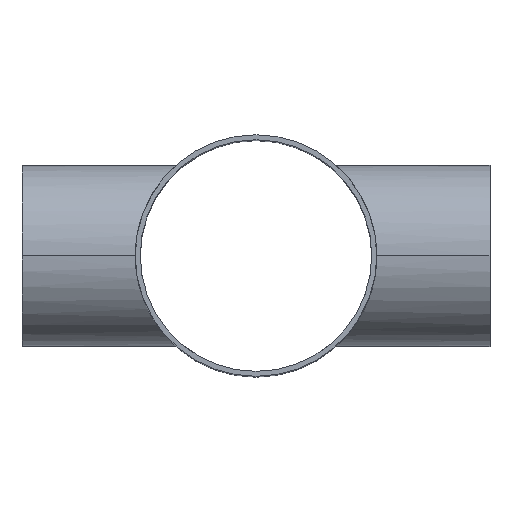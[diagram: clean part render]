
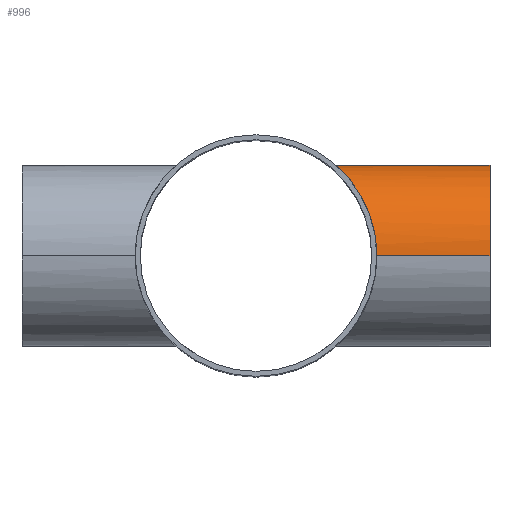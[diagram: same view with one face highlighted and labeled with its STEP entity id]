
A CAD part, top view. The second image highlights one B-rep face of the part: STEP entity #996.
In plain terms, the highlighted cylindrical face has radius 38.1 mm (diameter 76.2 mm), a partial arc.
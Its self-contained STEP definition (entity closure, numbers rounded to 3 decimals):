
#5 = CARTESIAN_POINT ( 'NONE',  ( 33.896, 37.838, -4.51 ) ) ;
#13 = CARTESIAN_POINT ( 'NONE',  ( 35.093, 36.734, -10.186 ) ) ;
#39 = CARTESIAN_POINT ( 'NONE',  ( 46.923, 19.474, 32.753 ) ) ;
#54 = CARTESIAN_POINT ( 'NONE',  ( 47.772, 17.315, 33.961 ) ) ;
#82 = CARTESIAN_POINT ( 'NONE',  ( 98.425, 0., 0. ) ) ;
#84 = CARTESIAN_POINT ( 'NONE',  ( 50., 9.001, 37.027 ) ) ;
#95 = CYLINDRICAL_SURFACE ( 'NONE', #378, 38.1 ) ;
#99 = CARTESIAN_POINT ( 'NONE',  ( 42.699, 27.526, -26.349 ) ) ;
#103 = CARTESIAN_POINT ( 'NONE',  ( 35.669, 36.173, -11.981 ) ) ;
#109 = CIRCLE ( 'NONE', #147, 38.1 ) ;
#122 = CARTESIAN_POINT ( 'NONE',  ( 46.24, 21.042, 31.768 ) ) ;
#138 = CARTESIAN_POINT ( 'NONE',  ( 50.8, 0., 38.1 ) ) ;
#147 = AXIS2_PLACEMENT_3D ( 'NONE', #82, #1013, #1089 ) ;
#156 = CARTESIAN_POINT ( 'NONE',  ( 50.8, 0., -38.1 ) ) ;
#161 = CARTESIAN_POINT ( 'NONE',  ( 35.108, 36.72, 10.239 ) ) ;
#171 = CARTESIAN_POINT ( 'NONE',  ( 34.347, 37.429, 7.147 ) ) ;
#173 = ORIENTED_EDGE ( 'NONE', *, *, #840, .T. ) ;
#185 = CARTESIAN_POINT ( 'NONE',  ( 40.812, 30.264, -23.177 ) ) ;
#235 = CARTESIAN_POINT ( 'NONE',  ( 44.036, 25.405, 28.494 ) ) ;
#236 = CARTESIAN_POINT ( 'NONE',  ( 98.425, 0., 38.1 ) ) ;
#248 = CARTESIAN_POINT ( 'NONE',  ( 50.8, 2.645, -38.1 ) ) ;
#252 = CARTESIAN_POINT ( 'NONE',  ( 40.826, 30.245, 23.201 ) ) ;
#253 = CARTESIAN_POINT ( 'NONE',  ( 46.448, 20.58, -32.07 ) ) ;
#257 = CARTESIAN_POINT ( 'NONE',  ( 34.001, 37.744, 5.239 ) ) ;
#268 = CARTESIAN_POINT ( 'NONE',  ( 41.623, 29.127, -24.568 ) ) ;
#319 = CARTESIAN_POINT ( 'NONE',  ( 50.8, 0., -38.1 ) ) ;
#334 = CARTESIAN_POINT ( 'NONE',  ( 49.988, 9.066, -37.011 ) ) ;
#338 = CARTESIAN_POINT ( 'NONE',  ( 34.221, 37.544, 6.516 ) ) ;
#339 = EDGE_CURVE ( 'NONE', #612, #779, #1024, .T. ) ;
#343 = CARTESIAN_POINT ( 'NONE',  ( 46.898, 19.532, -32.718 ) ) ;
#344 = CARTESIAN_POINT ( 'NONE',  ( 34.769, 37.039, 9.019 ) ) ;
#357 = CARTESIAN_POINT ( 'NONE',  ( 33.679, 38.032, 2.633 ) ) ;
#360 = B_SPLINE_CURVE_WITH_KNOTS ( 'NONE', 3,
 ( #827, #406, #990, #777, #84, #536, #611, #760, #1065, #569, #54, #903, #39, #977, #122, #642, #235, #681, #771, #624, #848, #252, #857, #1009, #937, #855, #436, #161, #344, #171, #338, #257, #671, #357, #950, #449, #528, #5, #688, #957, #872, #458, #13, #103, #607, #943, #783, #603, #517, #684, #185, #268, #869, #519, #99, #954, #851, #754, #253, #343, #940, #663, #583, #1083, #511, #1007, #426, #334, #843, #788, #248, #156 ),
 .UNSPECIFIED., .F., .F.,
 ( 4, 2, 2, 2, 2, 2, 2, 2, 2, 2, 2, 2, 2, 2, 2, 2, 2, 2, 2, 2, 2, 2, 2, 2, 2, 2, 2, 2, 2, 2, 2, 2, 2, 2, 2, 4 ),
 ( 0., 0.008, 0.01, 0.012, 0.016, 0.019, 0.021, 0.023, 0.031, 0.033, 0.035, 0.039, 0.047, 0.051, 0.055, 0.057, 0.058, 0.062, 0.066, 0.068, 0.07, 0.074, 0.076, 0.078, 0.086, 0.09, 0.092, 0.094, 0.101, 0.103, 0.105, 0.109, 0.113, 0.115, 0.117, 0.125 ),
 .UNSPECIFIED. ) ;
#378 = AXIS2_PLACEMENT_3D ( 'NONE', #746, #556, #879 ) ;
#406 = CARTESIAN_POINT ( 'NONE',  ( 50.8, 2.642, 38.1 ) ) ;
#419 = DIRECTION ( 'NONE',  ( 1., 0., 0. ) ) ;
#423 = CARTESIAN_POINT ( 'NONE',  ( 98.425, 0., -38.1 ) ) ;
#426 = CARTESIAN_POINT ( 'NONE',  ( 49.746, 10.315, -36.683 ) ) ;
#427 = LINE ( 'NONE', #819, #677 ) ;
#436 = CARTESIAN_POINT ( 'NONE',  ( 35.878, 35.968, 12.63 ) ) ;
#449 = CARTESIAN_POINT ( 'NONE',  ( 33.6, 38.101, -1.271 ) ) ;
#458 = CARTESIAN_POINT ( 'NONE',  ( 34.754, 37.053, -8.963 ) ) ;
#460 = EDGE_CURVE ( 'NONE', #1010, #657, #427, .T. ) ;
#495 = CARTESIAN_POINT ( 'NONE',  ( -98.425, 0., -38.1 ) ) ;
#511 = CARTESIAN_POINT ( 'NONE',  ( 49.189, 12.754, -35.925 ) ) ;
#517 = CARTESIAN_POINT ( 'NONE',  ( 38.69, 32.964, -19.252 ) ) ;
#519 = CARTESIAN_POINT ( 'NONE',  ( 42.432, 27.936, -25.915 ) ) ;
#528 = CARTESIAN_POINT ( 'NONE',  ( 33.674, 38.036, -2.568 ) ) ;
#536 = CARTESIAN_POINT ( 'NONE',  ( 49.76, 10.248, 36.702 ) ) ;
#556 = DIRECTION ( 'NONE',  ( 1., 0., 0. ) ) ;
#569 = CARTESIAN_POINT ( 'NONE',  ( 48.163, 16.198, 34.508 ) ) ;
#574 = DIRECTION ( 'NONE',  ( 1., 0., 0. ) ) ;
#583 = CARTESIAN_POINT ( 'NONE',  ( 48.15, 16.239, -34.489 ) ) ;
#584 = VECTOR ( 'NONE', #574, 1000. ) ;
#603 = CARTESIAN_POINT ( 'NONE',  ( 37.668, 34.111, -17.15 ) ) ;
#607 = CARTESIAN_POINT ( 'NONE',  ( 35.872, 35.971, -12.573 ) ) ;
#611 = CARTESIAN_POINT ( 'NONE',  ( 49.627, 10.87, 36.522 ) ) ;
#612 = VERTEX_POINT ( 'NONE', #319 ) ;
#624 = CARTESIAN_POINT ( 'NONE',  ( 41.907, 28.717, 25.046 ) ) ;
#642 = CARTESIAN_POINT ( 'NONE',  ( 45.058, 23.566, 30.037 ) ) ;
#657 = VERTEX_POINT ( 'NONE', #236 ) ;
#663 = CARTESIAN_POINT ( 'NONE',  ( 47.756, 17.359, -33.939 ) ) ;
#671 = CARTESIAN_POINT ( 'NONE',  ( 33.907, 37.828, 4.592 ) ) ;
#677 = VECTOR ( 'NONE', #419, 1000. ) ;
#681 = CARTESIAN_POINT ( 'NONE',  ( 42.712, 27.506, 26.37 ) ) ;
#684 = CARTESIAN_POINT ( 'NONE',  ( 40.274, 30.973, -22.219 ) ) ;
#688 = CARTESIAN_POINT ( 'NONE',  ( 33.989, 37.755, -5.158 ) ) ;
#734 = ORIENTED_EDGE ( 'NONE', *, *, #339, .F. ) ;
#746 = CARTESIAN_POINT ( 'NONE',  ( -98.425, 0., 0. ) ) ;
#754 = CARTESIAN_POINT ( 'NONE',  ( 46.218, 21.092, -31.735 ) ) ;
#755 = FACE_OUTER_BOUND ( 'NONE', #1049, .T. ) ;
#756 = ORIENTED_EDGE ( 'NONE', *, *, #962, .F. ) ;
#760 = CARTESIAN_POINT ( 'NONE',  ( 49.201, 12.708, 35.941 ) ) ;
#771 = CARTESIAN_POINT ( 'NONE',  ( 42.445, 27.916, 25.935 ) ) ;
#777 = CARTESIAN_POINT ( 'NONE',  ( 50.109, 8.374, 37.174 ) ) ;
#779 = VERTEX_POINT ( 'NONE', #423 ) ;
#783 = CARTESIAN_POINT ( 'NONE',  ( 36.522, 35.312, -14.321 ) ) ;
#788 = CARTESIAN_POINT ( 'NONE',  ( 50.595, 5.242, -37.828 ) ) ;
#819 = CARTESIAN_POINT ( 'NONE',  ( -98.425, 0., 38.1 ) ) ;
#827 = CARTESIAN_POINT ( 'NONE',  ( 50.8, 0., 38.1 ) ) ;
#840 = EDGE_CURVE ( 'NONE', #657, #779, #109, .T. ) ;
#843 = CARTESIAN_POINT ( 'NONE',  ( 50.1, 8.431, -37.161 ) ) ;
#848 = CARTESIAN_POINT ( 'NONE',  ( 41.636, 29.109, 24.59 ) ) ;
#851 = CARTESIAN_POINT ( 'NONE',  ( 45.041, 23.598, -30.011 ) ) ;
#855 = CARTESIAN_POINT ( 'NONE',  ( 36.312, 35.532, 13.805 ) ) ;
#857 = CARTESIAN_POINT ( 'NONE',  ( 40.289, 30.954, 22.245 ) ) ;
#869 = CARTESIAN_POINT ( 'NONE',  ( 41.894, 28.736, -25.024 ) ) ;
#872 = CARTESIAN_POINT ( 'NONE',  ( 34.334, 37.442, -7.081 ) ) ;
#879 = DIRECTION ( 'NONE',  ( 0., 0., -1. ) ) ;
#903 = CARTESIAN_POINT ( 'NONE',  ( 47.141, 18.94, 33.065 ) ) ;
#937 = CARTESIAN_POINT ( 'NONE',  ( 37.686, 34.091, 17.188 ) ) ;
#940 = CARTESIAN_POINT ( 'NONE',  ( 47.118, 18.996, -33.033 ) ) ;
#943 = CARTESIAN_POINT ( 'NONE',  ( 36.299, 35.541, -13.743 ) ) ;
#950 = CARTESIAN_POINT ( 'NONE',  ( 33.602, 38.099, 1.33 ) ) ;
#954 = CARTESIAN_POINT ( 'NONE',  ( 44.022, 25.429, -28.472 ) ) ;
#957 = CARTESIAN_POINT ( 'NONE',  ( 34.208, 37.556, -6.446 ) ) ;
#962 = EDGE_CURVE ( 'NONE', #1010, #612, #360, .T. ) ;
#977 = CARTESIAN_POINT ( 'NONE',  ( 46.473, 20.525, 32.105 ) ) ;
#990 = CARTESIAN_POINT ( 'NONE',  ( 50.595, 5.221, 37.828 ) ) ;
#996 = ADVANCED_FACE ( 'NONE', ( #755 ), #95, .T. ) ;
#1007 = CARTESIAN_POINT ( 'NONE',  ( 49.614, 10.931, -36.504 ) ) ;
#1009 = CARTESIAN_POINT ( 'NONE',  ( 38.706, 32.945, 19.285 ) ) ;
#1010 = VERTEX_POINT ( 'NONE', #138 ) ;
#1013 = DIRECTION ( 'NONE',  ( -1., 0., 0. ) ) ;
#1024 = LINE ( 'NONE', #495, #584 ) ;
#1025 = ORIENTED_EDGE ( 'NONE', *, *, #460, .T. ) ;
#1049 = EDGE_LOOP ( 'NONE', ( #756, #1025, #173, #734 ) ) ;
#1065 = CARTESIAN_POINT ( 'NONE',  ( 48.878, 13.894, 35.498 ) ) ;
#1083 = CARTESIAN_POINT ( 'NONE',  ( 48.866, 13.936, -35.482 ) ) ;
#1089 = DIRECTION ( 'NONE',  ( 0., 0., -1. ) ) ;
